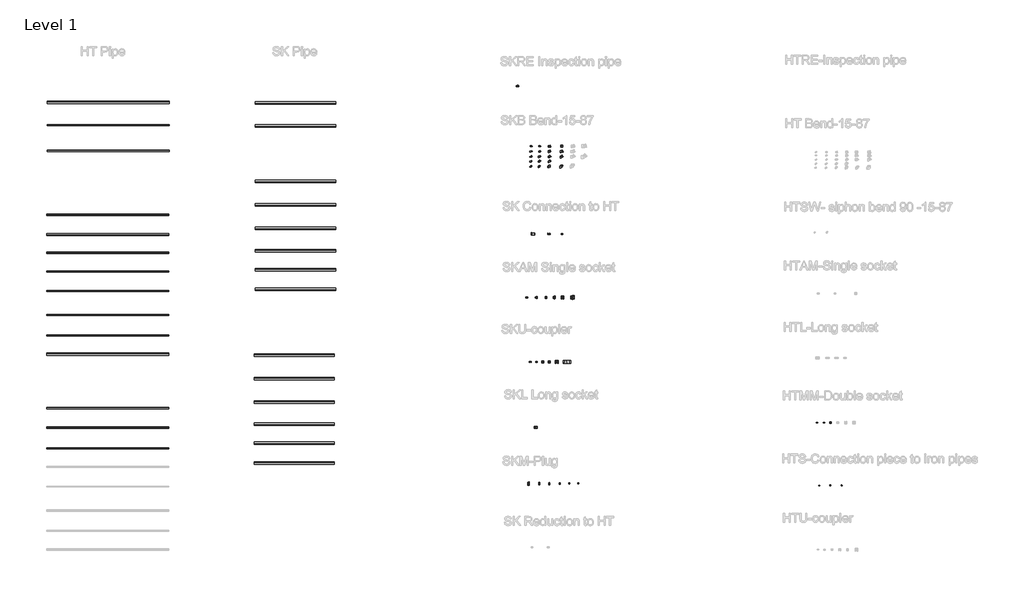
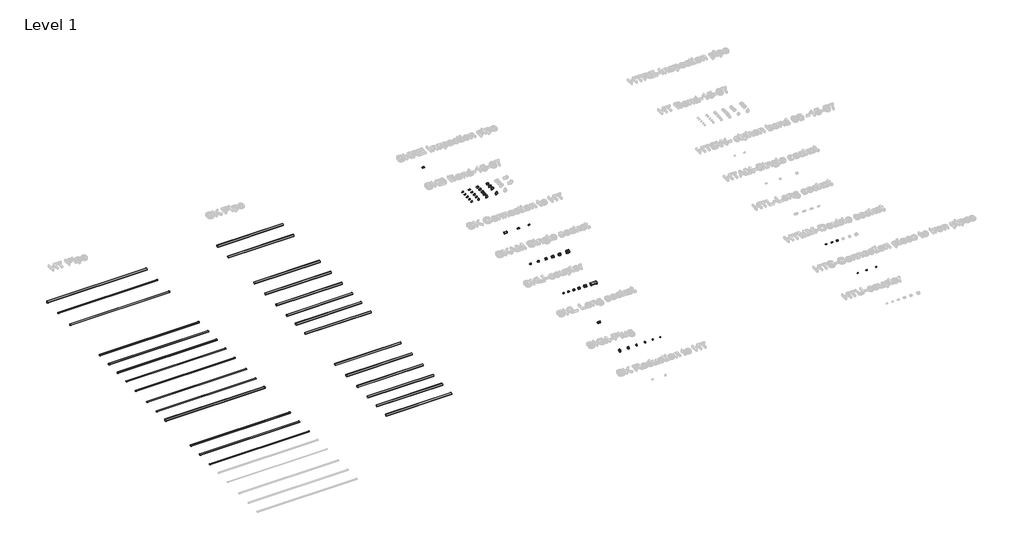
# One storey, part 2 of 29: 48 pipe fittings, 28 pipe segments.
"""IFC4 building model written with IfcOpenShell, lengths in millimetres."""

from ifc_helpers import new_model, si_unit, point, frame, frame_2d, origin, place, context, project, spatial, circle_curve, trimmed, segment, composite_curve, outline, extrude, transform, mapped, element, save
from components import pipe_fitting_97cefcbb, pipe_fitting_70d78208, pipe_fitting_3edb0472, pipe_fitting_ea9d4770, pipe_fitting_e8b2c53d, pipe_fitting_f070d908, pipe_fitting_42c9a68a, pipe_fitting_5114909c, pipe_fitting_4f15ce90, pipe_fitting_d92faa6e, pipe_fitting_08ce48a5, pipe_fitting_f1652b02, pipe_fitting_9059359d, pipe_fitting_59a59377, pipe_fitting_53d06ba0, pipe_fitting_7966021f, pipe_fitting_6bf98725, pipe_fitting_cee9e1e2, pipe_fitting_e52ff58d, pipe_fitting_2441ba4f, pipe_fitting_1ebebd56, pipe_fitting_a1ca4762, pipe_fitting_9b191db9, pipe_fitting_8de20daa, pipe_fitting_c5eb8bb2, pipe_fitting_2e757afb, pipe_fitting_46e309c2, pipe_fitting_6b5410aa, pipe_fitting_61a439ca, pipe_fitting_ea96c309, pipe_fitting_8957d1a8, pipe_fitting_1f33a7f4, pipe_fitting_3a01ebc7, pipe_fitting_8f561408, pipe_fitting_47bf5896, pipe_fitting_b53d4325, pipe_fitting_df833f15, pipe_fitting_8be27fc2, pipe_fitting_11ed9a3a, pipe_fitting_a771f2ab, pipe_fitting_0ddfdf04, pipe_fitting_d605dde8, pipe_fitting_faac6aaf, pipe_fitting_c86cb57a, pipe_fitting_fe7fcd8f, pipe_fitting_bae9c459, pipe_fitting_78887751, pipe_fitting_77622ff3

model = new_model("IFC4")

# Units and contexts
model_context = context("Model", 3, world=origin())
ifc_project = project(units=[si_unit("LENGTHUNIT", "METRE", prefix="MILLI")], contexts=[model_context])

# Site, building, storey
site = spatial("IfcSite", under=ifc_project)
building = spatial("IfcBuilding", under=site)
storey = spatial("IfcBuildingStorey", under=building, Name="Level 1", Elevation=0.0)

# Pipe fittings
placement = place(None, origin())
pipe_fitting_shape = pipe_fitting_97cefcbb(model_context)
element("IfcPipeFitting", 1, ObjectType="Superdrain SKL Long socket : Superdrain SKL Long socket", at=placement, inside=storey, context=model_context, shape_type="MappedRepresentation", body=[
    mapped(pipe_fitting_shape, transform((-2200.8096572, 5800.5406959, 0.0), x_axis=(1.0, 0.0, 0.0), y_axis=(0.0, 1.0, 0.0), z_axis=(0.0, 0.0, 1.0))),
])
pipe_fitting_2_shape = pipe_fitting_70d78208(model_context)
element("IfcPipeFitting", 2, ObjectType="Superdrain HTS-Connection piece to iron pipes : Superdrain HTS-Connection piece to iron pipes", at=placement, inside=storey, context=model_context, shape_type="MappedRepresentation", body=[
    mapped(pipe_fitting_2_shape, transform((17541.8986659, 1889.652324, 0.0), x_axis=(1.0, 0.0, 0.0), y_axis=(0.0, 1.0, 0.0), z_axis=(0.0, 0.0, 1.0))),
])
pipe_fitting_3_shape = pipe_fitting_3edb0472(model_context)
element("IfcPipeFitting", 3, ObjectType="Superdrain SK Connection to HT : Superdrain SK Connection to HT", at=placement, inside=storey, context=model_context, shape_type="MappedRepresentation", body=[
    mapped(pipe_fitting_3_shape, transform((-2399.8776508, 18813.449058, 0.0), x_axis=(1.0, 0.0, 0.0), y_axis=(0.0, 1.0, 0.0), z_axis=(0.0, 0.0, 1.0))),
])
pipe_fitting_4_shape = pipe_fitting_ea9d4770(model_context)
element("IfcPipeFitting", 4, ObjectType="Superdrain SKRE Inspection pipe : Superdrain SKRE Inspection pipe _56", at=placement, inside=storey, context=model_context, shape_type="MappedRepresentation", body=[
    mapped(pipe_fitting_4_shape, transform((-3456.4739237, 28758.5634475, 0.0), x_axis=(1.0, 0.0, 0.0), y_axis=(0.0, 1.0, 0.0), z_axis=(0.0, 0.0, 1.0))),
])
pipe_fitting_5_shape = pipe_fitting_e8b2c53d(model_context)
element("IfcPipeFitting", 5, ObjectType="Superdrain SKB Bend : Superdrain SKB Bend", at=placement, inside=storey, context=model_context, shape_type="MappedRepresentation", body=[
    mapped(pipe_fitting_5_shape, transform((-2551.9116196, 24709.074399, 0.0), x_axis=(1.0, 0.0, 0.0), y_axis=(0.0, 1.0, 0.0), z_axis=(0.0, 0.0, 1.0))),
])
pipe_fitting_6_shape = pipe_fitting_f070d908(model_context)
element("IfcPipeFitting", 6, ObjectType="Superdrain SKB Bend : Superdrain SKB Bend", at=placement, inside=storey, context=model_context, shape_type="MappedRepresentation", body=[
    mapped(pipe_fitting_6_shape, transform((-1985.9920519, 24709.074399, 0.0), x_axis=(1.0, 0.0, 0.0), y_axis=(0.0, 1.0, 0.0), z_axis=(0.0, 0.0, 1.0))),
])
pipe_fitting_7_shape = pipe_fitting_42c9a68a(model_context)
element("IfcPipeFitting", 7, ObjectType="Superdrain SKB Bend : Superdrain SKB Bend", at=placement, inside=storey, context=model_context, shape_type="MappedRepresentation", body=[
    mapped(pipe_fitting_7_shape, transform((-2551.9116196, 24352.4698153, 0.0), x_axis=(1.0, 0.0, 0.0), y_axis=(0.0, 1.0, 0.0), z_axis=(0.0, 0.0, 1.0))),
])
pipe_fitting_8_shape = pipe_fitting_5114909c(model_context)
element("IfcPipeFitting", 8, ObjectType="Superdrain SKB Bend : Superdrain SKB Bend", at=placement, inside=storey, context=model_context, shape_type="MappedRepresentation", body=[
    mapped(pipe_fitting_8_shape, transform((-1985.9920519, 24352.4698153, 0.0), x_axis=(1.0, 0.0, 0.0), y_axis=(0.0, 1.0, 0.0), z_axis=(0.0, 0.0, 1.0))),
])
pipe_fitting_9_shape = pipe_fitting_4f15ce90(model_context)
element("IfcPipeFitting", 9, ObjectType="Superdrain SKB Bend : Superdrain SKB Bend", at=placement, inside=storey, context=model_context, shape_type="MappedRepresentation", body=[
    mapped(pipe_fitting_9_shape, transform((-2551.9116196, 23995.8652317, 0.0), x_axis=(1.0, 0.0, 0.0), y_axis=(0.0, 1.0, 0.0), z_axis=(0.0, 0.0, 1.0))),
])
pipe_fitting_10_shape = pipe_fitting_d92faa6e(model_context)
element("IfcPipeFitting", 10, ObjectType="Superdrain SKB Bend : Superdrain SKB Bend", at=placement, inside=storey, context=model_context, shape_type="MappedRepresentation", body=[
    mapped(pipe_fitting_10_shape, transform((-1985.9920519, 23995.8652317, 0.0), x_axis=(1.0, 0.0, 0.0), y_axis=(0.0, 1.0, 0.0), z_axis=(0.0, 0.0, 1.0))),
])
pipe_fitting_11_shape = pipe_fitting_08ce48a5(model_context)
element("IfcPipeFitting", 11, ObjectType="Superdrain SKB Bend : Superdrain SKB Bend", at=placement, inside=storey, context=model_context, shape_type="MappedRepresentation", body=[
    mapped(pipe_fitting_11_shape, transform((-2551.9116196, 23669.685075, 0.0), x_axis=(1.0, 0.0, 0.0), y_axis=(0.0, 1.0, 0.0), z_axis=(0.0, 0.0, 1.0))),
])
pipe_fitting_12_shape = pipe_fitting_f1652b02(model_context)
element("IfcPipeFitting", 12, ObjectType="Superdrain SKB Bend : Superdrain SKB Bend", at=placement, inside=storey, context=model_context, shape_type="MappedRepresentation", body=[
    mapped(pipe_fitting_12_shape, transform((-1985.9920519, 23669.685075, 0.0), x_axis=(1.0, 0.0, 0.0), y_axis=(0.0, 1.0, 0.0), z_axis=(0.0, 0.0, 1.0))),
])
pipe_fitting_13_shape = pipe_fitting_9059359d(model_context)
element("IfcPipeFitting", 13, ObjectType="Superdrain SKB Bend : Superdrain SKB Bend", at=placement, inside=storey, context=model_context, shape_type="MappedRepresentation", body=[
    mapped(pipe_fitting_13_shape, transform((-2551.9116196, 23322.0453883, 0.0), x_axis=(1.0, 0.0, 0.0), y_axis=(0.0, 1.0, 0.0), z_axis=(0.0, 0.0, 1.0))),
])
pipe_fitting_14_shape = pipe_fitting_59a59377(model_context)
element("IfcPipeFitting", 14, ObjectType="Superdrain SKB Bend : Superdrain SKB Bend", at=placement, inside=storey, context=model_context, shape_type="MappedRepresentation", body=[
    mapped(pipe_fitting_14_shape, transform((-1985.9920519, 23322.0453883, 0.0), x_axis=(1.0, 0.0, 0.0), y_axis=(0.0, 1.0, 0.0), z_axis=(0.0, 0.0, 1.0))),
])
pipe_fitting_15_shape = pipe_fitting_53d06ba0(model_context)
element("IfcPipeFitting", 15, ObjectType="Superdrain SKB Bend : Superdrain SKB Bend", at=placement, inside=storey, context=model_context, shape_type="MappedRepresentation", body=[
    mapped(pipe_fitting_15_shape, transform((-1314.8706809, 24709.074399, 0.0), x_axis=(1.0, 0.0, 0.0), y_axis=(0.0, 1.0, 0.0), z_axis=(0.0, 0.0, 1.0))),
])
pipe_fitting_16_shape = pipe_fitting_7966021f(model_context)
element("IfcPipeFitting", 16, ObjectType="Superdrain SKB Bend : Superdrain SKB Bend", at=placement, inside=storey, context=model_context, shape_type="MappedRepresentation", body=[
    mapped(pipe_fitting_16_shape, transform((-1314.8706809, 24352.4698153, 0.0), x_axis=(1.0, 0.0, 0.0), y_axis=(0.0, 1.0, 0.0), z_axis=(0.0, 0.0, 1.0))),
])
pipe_fitting_17_shape = pipe_fitting_6bf98725(model_context)
element("IfcPipeFitting", 17, ObjectType="Superdrain SKB Bend : Superdrain SKB Bend", at=placement, inside=storey, context=model_context, shape_type="MappedRepresentation", body=[
    mapped(pipe_fitting_17_shape, transform((-1314.8706809, 23995.8652317, 0.0), x_axis=(1.0, 0.0, 0.0), y_axis=(0.0, 1.0, 0.0), z_axis=(0.0, 0.0, 1.0))),
])
pipe_fitting_18_shape = pipe_fitting_cee9e1e2(model_context)
element("IfcPipeFitting", 18, ObjectType="Superdrain SKB Bend : Superdrain SKB Bend", at=placement, inside=storey, context=model_context, shape_type="MappedRepresentation", body=[
    mapped(pipe_fitting_18_shape, transform((-1314.8706809, 23669.685075, 0.0), x_axis=(1.0, 0.0, 0.0), y_axis=(0.0, 1.0, 0.0), z_axis=(0.0, 0.0, 1.0))),
])
pipe_fitting_19_shape = pipe_fitting_e52ff58d(model_context)
element("IfcPipeFitting", 19, ObjectType="Superdrain SKB Bend : Superdrain SKB Bend", at=placement, inside=storey, context=model_context, shape_type="MappedRepresentation", body=[
    mapped(pipe_fitting_19_shape, transform((-1314.8706809, 23322.0453883, 0.0), x_axis=(1.0, 0.0, 0.0), y_axis=(0.0, 1.0, 0.0), z_axis=(0.0, 0.0, 1.0))),
])
pipe_fitting_20_shape = pipe_fitting_2441ba4f(model_context)
element("IfcPipeFitting", 20, ObjectType="Superdrain SKB Bend : Superdrain SKB Bend", at=placement, inside=storey, context=model_context, shape_type="MappedRepresentation", body=[
    mapped(pipe_fitting_20_shape, transform((-500.6322662, 24709.074399, 0.0), x_axis=(1.0, 0.0, 0.0), y_axis=(0.0, 1.0, 0.0), z_axis=(0.0, 0.0, 1.0))),
])
pipe_fitting_21_shape = pipe_fitting_1ebebd56(model_context)
element("IfcPipeFitting", 21, ObjectType="Superdrain SKB Bend : Superdrain SKB Bend", at=placement, inside=storey, context=model_context, shape_type="MappedRepresentation", body=[
    mapped(pipe_fitting_21_shape, transform((-500.6322662, 24352.4698153, 0.0), x_axis=(1.0, 0.0, 0.0), y_axis=(0.0, 1.0, 0.0), z_axis=(0.0, 0.0, 1.0))),
])
pipe_fitting_22_shape = pipe_fitting_a1ca4762(model_context)
element("IfcPipeFitting", 22, ObjectType="Superdrain SKB Bend : Superdrain SKB Bend", at=placement, inside=storey, context=model_context, shape_type="MappedRepresentation", body=[
    mapped(pipe_fitting_22_shape, transform((-500.6322662, 23995.8652317, 0.0), x_axis=(1.0, 0.0, 0.0), y_axis=(0.0, 1.0, 0.0), z_axis=(0.0, 0.0, 1.0))),
])
pipe_fitting_23_shape = pipe_fitting_9b191db9(model_context)
element("IfcPipeFitting", 23, ObjectType="Superdrain SKB Bend : Superdrain SKB Bend", at=placement, inside=storey, context=model_context, shape_type="MappedRepresentation", body=[
    mapped(pipe_fitting_23_shape, transform((-500.6322662, 23322.0453883, 0.0), x_axis=(1.0, 0.0, 0.0), y_axis=(0.0, 1.0, 0.0), z_axis=(0.0, 0.0, 1.0))),
])
pipe_fitting_24_shape = pipe_fitting_8de20daa(model_context)
element("IfcPipeFitting", 24, ObjectType="Superdrain SKAM Single socket : Superdrain SKAM Single socket", at=placement, inside=storey, context=model_context, shape_type="MappedRepresentation", body=[
    mapped(pipe_fitting_24_shape, transform((-2840.6757122, 14536.7917274, 0.0), x_axis=(1.0, 0.0, 0.0), y_axis=(0.0, 1.0, 0.0), z_axis=(0.0, 0.0, 1.0))),
])
pipe_fitting_25_shape = pipe_fitting_c5eb8bb2(model_context)
element("IfcPipeFitting", 25, ObjectType="Superdrain SKAM Single socket : Superdrain SKAM Single socket", at=placement, inside=storey, context=model_context, shape_type="MappedRepresentation", body=[
    mapped(pipe_fitting_25_shape, transform((-2203.2227387, 14536.7917274, 0.0), x_axis=(1.0, 0.0, 0.0), y_axis=(0.0, 1.0, 0.0), z_axis=(0.0, 0.0, 1.0))),
])
pipe_fitting_26_shape = pipe_fitting_2e757afb(model_context)
element("IfcPipeFitting", 26, ObjectType="Superdrain SKAM Single socket : Superdrain SKAM Single socket", at=placement, inside=storey, context=model_context, shape_type="MappedRepresentation", body=[
    mapped(pipe_fitting_26_shape, transform((-1549.1436808, 14536.7917274, 0.0), x_axis=(1.0, 0.0, 0.0), y_axis=(0.0, 1.0, 0.0), z_axis=(0.0, 0.0, 1.0))),
])
pipe_fitting_27_shape = pipe_fitting_46e309c2(model_context)
element("IfcPipeFitting", 27, ObjectType="Superdrain SKAM Single socket : Superdrain SKAM Single socket", at=placement, inside=storey, context=model_context, shape_type="MappedRepresentation", body=[
    mapped(pipe_fitting_27_shape, transform((-1008.5205916, 14536.7917274, 0.0), x_axis=(1.0, 0.0, 0.0), y_axis=(0.0, 1.0, 0.0), z_axis=(0.0, 0.0, 1.0))),
])
pipe_fitting_28_shape = pipe_fitting_6b5410aa(model_context)
element("IfcPipeFitting", 28, ObjectType="Superdrain SKAM Single socket : Superdrain SKAM Single socket", at=placement, inside=storey, context=model_context, shape_type="MappedRepresentation", body=[
    mapped(pipe_fitting_28_shape, transform((-450.6435741, 14536.7917274, 0.0), x_axis=(1.0, 0.0, 0.0), y_axis=(0.0, 1.0, 0.0), z_axis=(0.0, 0.0, 1.0))),
])
pipe_fitting_29_shape = pipe_fitting_61a439ca(model_context)
element("IfcPipeFitting", 29, ObjectType="Superdrain SKAM Single socket : Superdrain SKAM Single socket", at=placement, inside=storey, context=model_context, shape_type="MappedRepresentation", body=[
    mapped(pipe_fitting_29_shape, transform((241.9276732, 14536.7917274, 0.0), x_axis=(1.0, 0.0, 0.0), y_axis=(0.0, 1.0, 0.0), z_axis=(0.0, 0.0, 1.0))),
])
pipe_fitting_30_shape = pipe_fitting_ea96c309(model_context)
element("IfcPipeFitting", 30, ObjectType="Superdrain SKU-coupler : Superdrain SKU-coupler", at=placement, inside=storey, context=model_context, shape_type="MappedRepresentation", body=[
    mapped(pipe_fitting_30_shape, transform((-2606.7563139, 10215.3851194, 0.0), x_axis=(1.0, 0.0, 0.0), y_axis=(0.0, 1.0, 0.0), z_axis=(0.0, 0.0, 1.0))),
])
pipe_fitting_31_shape = pipe_fitting_8957d1a8(model_context)
element("IfcPipeFitting", 31, ObjectType="Superdrain SKU-coupler : Superdrain SKU-coupler", at=placement, inside=storey, context=model_context, shape_type="MappedRepresentation", body=[
    mapped(pipe_fitting_31_shape, transform((-141.6705568, 10201.2429838, 0.0), x_axis=(1.0, 0.0, 0.0), y_axis=(0.0, 1.0, 0.0), z_axis=(0.0, 0.0, 1.0))),
])
pipe_fitting_32_shape = pipe_fitting_1f33a7f4(model_context)
element("IfcPipeFitting", 32, ObjectType="Superdrain SKU-coupler : Superdrain SKU-coupler", at=placement, inside=storey, context=model_context, shape_type="MappedRepresentation", body=[
    mapped(pipe_fitting_32_shape, transform((-827.7185867, 10201.2429838, 0.0), x_axis=(1.0, 0.0, 0.0), y_axis=(0.0, 1.0, 0.0), z_axis=(0.0, 0.0, 1.0))),
])
pipe_fitting_33_shape = pipe_fitting_3a01ebc7(model_context)
element("IfcPipeFitting", 33, ObjectType="Superdrain SKU-coupler : Superdrain SKU-coupler", at=placement, inside=storey, context=model_context, shape_type="MappedRepresentation", body=[
    mapped(pipe_fitting_33_shape, transform((-1338.128374, 10201.2429838, 0.0), x_axis=(1.0, 0.0, 0.0), y_axis=(0.0, 1.0, 0.0), z_axis=(0.0, 0.0, 1.0))),
])
pipe_fitting_34_shape = pipe_fitting_8f561408(model_context)
element("IfcPipeFitting", 34, ObjectType="Superdrain SKU-coupler : Superdrain SKU-coupler", at=placement, inside=storey, context=model_context, shape_type="MappedRepresentation", body=[
    mapped(pipe_fitting_34_shape, transform((-1765.0041113, 10201.2429838, 0.0), x_axis=(1.0, 0.0, 0.0), y_axis=(0.0, 1.0, 0.0), z_axis=(0.0, 0.0, 1.0))),
])
pipe_fitting_35_shape = pipe_fitting_47bf5896(model_context)
element("IfcPipeFitting", 35, ObjectType="Superdrain SKU-coupler : Superdrain SKU-coupler", at=placement, inside=storey, context=model_context, shape_type="MappedRepresentation", body=[
    mapped(pipe_fitting_35_shape, transform((-2200.8984495, 10201.2429838, 0.0), x_axis=(1.0, 0.0, 0.0), y_axis=(0.0, 1.0, 0.0), z_axis=(0.0, 0.0, 1.0))),
])
pipe_fitting_36_shape = pipe_fitting_b53d4325(model_context)
element("IfcPipeFitting", 36, ObjectType="Superdrain HTMM-Double socket : Superdrain HTMM-Double socket", at=placement, inside=storey, context=model_context, shape_type="MappedRepresentation", body=[
    mapped(pipe_fitting_36_shape, transform((16659.8272116, 6113.6610392, 0.0), x_axis=(1.0, 0.0, 0.0), y_axis=(0.0, 1.0, 0.0), z_axis=(0.0, 0.0, 1.0))),
])
pipe_fitting_37_shape = pipe_fitting_df833f15(model_context)
element("IfcPipeFitting", 37, ObjectType="Superdrain HTMM-Double socket : Superdrain HTMM-Double socket", at=placement, inside=storey, context=model_context, shape_type="MappedRepresentation", body=[
    mapped(pipe_fitting_37_shape, transform((17580.8588953, 6113.6610392, 0.0), x_axis=(1.0, 0.0, 0.0), y_axis=(0.0, 1.0, 0.0), z_axis=(0.0, 0.0, 1.0))),
])
pipe_fitting_38_shape = pipe_fitting_8be27fc2(model_context)
element("IfcPipeFitting", 38, ObjectType="Superdrain SKM-Plug : Superdrain SKM-Plug", at=placement, inside=storey, context=model_context, shape_type="MappedRepresentation", body=[
    mapped(pipe_fitting_38_shape, transform((-2763.7633358, 2011.4975834, 0.0), x_axis=(1.0, 0.0, 0.0), y_axis=(0.0, 1.0, 0.0), z_axis=(0.0, 0.0, 1.0))),
])
pipe_fitting_39_shape = pipe_fitting_11ed9a3a(model_context)
element("IfcPipeFitting", 39, ObjectType="Superdrain SKM-Plug : Superdrain SKM-Plug", at=placement, inside=storey, context=model_context, shape_type="MappedRepresentation", body=[
    mapped(pipe_fitting_39_shape, transform((-2043.7633358, 2011.4975834, 0.0), x_axis=(1.0, 0.0, 0.0), y_axis=(0.0, 1.0, 0.0), z_axis=(0.0, 0.0, 1.0))),
])
pipe_fitting_40_shape = pipe_fitting_a771f2ab(model_context)
element("IfcPipeFitting", 40, ObjectType="Superdrain SKM-Plug : Superdrain SKM-Plug", at=placement, inside=storey, context=model_context, shape_type="MappedRepresentation", body=[
    mapped(pipe_fitting_40_shape, transform((-1363.7633358, 2011.4975834, 0.0), x_axis=(1.0, 0.0, 0.0), y_axis=(0.0, 1.0, 0.0), z_axis=(0.0, 0.0, 1.0))),
])
pipe_fitting_41_shape = pipe_fitting_0ddfdf04(model_context)
element("IfcPipeFitting", 41, ObjectType="Superdrain SKM-Plug : Superdrain SKM-Plug", at=placement, inside=storey, context=model_context, shape_type="MappedRepresentation", body=[
    mapped(pipe_fitting_41_shape, transform((-663.7633358, 2011.4975834, 0.0), x_axis=(1.0, 0.0, 0.0), y_axis=(0.0, 1.0, 0.0), z_axis=(0.0, 0.0, 1.0))),
])
pipe_fitting_42_shape = pipe_fitting_d605dde8(model_context)
element("IfcPipeFitting", 42, ObjectType="Superdrain SKM-Plug : Superdrain SKM-Plug", at=placement, inside=storey, context=model_context, shape_type="MappedRepresentation", body=[
    mapped(pipe_fitting_42_shape, transform((-21.3417547, 2025.2717365, 0.0), x_axis=(1.0, 0.0, 0.0), y_axis=(0.0, 1.0, 0.0), z_axis=(0.0, 0.0, 1.0))),
])
pipe_fitting_43_shape = pipe_fitting_faac6aaf(model_context)
element("IfcPipeFitting", 43, ObjectType="Superdrain SKM-Plug : Superdrain SKM-Plug", at=placement, inside=storey, context=model_context, shape_type="MappedRepresentation", body=[
    mapped(pipe_fitting_43_shape, transform((598.6582453, 2025.2717365, 0.0), x_axis=(1.0, 0.0, 0.0), y_axis=(0.0, 1.0, 0.0), z_axis=(0.0, 0.0, 1.0))),
])
pipe_fitting_44_shape = pipe_fitting_c86cb57a(model_context)
element("IfcPipeFitting", 44, ObjectType="Superdrain HTS-Connection piece to iron pipes : Superdrain HTS-Connection piece to iron pipes", at=placement, inside=storey, context=model_context, shape_type="MappedRepresentation", body=[
    mapped(pipe_fitting_44_shape, transform((16805.2864942, 1889.652324, 0.0), x_axis=(1.0, 0.0, 0.0), y_axis=(0.0, 1.0, 0.0), z_axis=(0.0, 0.0, 1.0))),
])
pipe_fitting_45_shape = pipe_fitting_fe7fcd8f(model_context)
element("IfcPipeFitting", 45, ObjectType="Superdrain HTS-Connection piece to iron pipes : Superdrain HTS-Connection piece to iron pipes", at=placement, inside=storey, context=model_context, shape_type="MappedRepresentation", body=[
    mapped(pipe_fitting_45_shape, transform((18326.5580023, 1889.652324, 0.0), x_axis=(1.0, 0.0, 0.0), y_axis=(0.0, 1.0, 0.0), z_axis=(0.0, 0.0, 1.0))),
])
pipe_fitting_46_shape = pipe_fitting_bae9c459(model_context)
element("IfcPipeFitting", 46, ObjectType="Superdrain SK Connection to HT : Superdrain SK Connection to HT", at=placement, inside=storey, context=model_context, shape_type="MappedRepresentation", body=[
    mapped(pipe_fitting_46_shape, transform((-1342.9922535, 18813.449058, 0.0), x_axis=(1.0, 0.0, 0.0), y_axis=(0.0, 1.0, 0.0), z_axis=(0.0, 0.0, 1.0))),
])
pipe_fitting_47_shape = pipe_fitting_78887751(model_context)
element("IfcPipeFitting", 47, ObjectType="Superdrain SK Connection to HT : Superdrain SK Connection to HT", at=placement, inside=storey, context=model_context, shape_type="MappedRepresentation", body=[
    mapped(pipe_fitting_47_shape, transform((-460.753982, 18813.449058, 0.0), x_axis=(1.0, 0.0, 0.0), y_axis=(0.0, 1.0, 0.0), z_axis=(0.0, 0.0, 1.0))),
])
pipe_fitting_48_shape = pipe_fitting_77622ff3(model_context)
element("IfcPipeFitting", 48, ObjectType="Superdrain HTMM-Double socket : Superdrain HTMM-Double socket", at=placement, inside=storey, context=model_context, shape_type="MappedRepresentation", body=[
    mapped(pipe_fitting_48_shape, transform((17140.8093691, 6113.6610392, 0.0), x_axis=(1.0, 0.0, 0.0), y_axis=(0.0, 1.0, 0.0), z_axis=(0.0, 0.0, 1.0))),
])

# Pipe segments
element("IfcPipeSegment", 49, ObjectType="Superdrain HT_ Double socket", at=placement, inside=storey, context=model_context, shape_type="SweptSolid", body=[
    extrude(outline(composite_curve([segment(trimmed(circle_curve(frame_2d((24401.0738305, 0.0)), 62.5), [point((24338.5738305, 0.0))], [point((24401.0738305, 62.5))], False, "CARTESIAN"), True, "CONTINUOUS"), segment(trimmed(circle_curve(frame_2d((24401.0738305, 0.0)), 62.5), [point((24401.0738305, 62.5))], [point((24463.5738305, 0.0))], False, "CARTESIAN"), True, "CONTINUOUS"), segment(trimmed(circle_curve(frame_2d((24401.0738305, 0.0)), 62.5), [point((24463.5738305, 0.0))], [point((24401.0738305, -62.5))], False, "CARTESIAN"), True, "CONTINUOUS"), segment(trimmed(circle_curve(frame_2d((24401.0738305, 0.0)), 62.5), [point((24401.0738305, -62.5))], [point((24338.5738305, 0.0))], False, "CARTESIAN"), True, "CONTINUOUS")], self_intersect=False)), frame((-35063.6570842, 0.0, 0.0), z_axis=(1.0, 0.0, 0.0), x_axis=(0.0, 1.0, 0.0)), (0.0, 0.0, 1.0), 8200.0),
])
element("IfcPipeSegment", 50, ObjectType="Superdrain HT_ Single socket", at=placement, inside=storey, context=model_context, shape_type="SweptSolid", body=[
    extrude(outline(composite_curve([segment(trimmed(circle_curve(frame_2d((26121.8702032, 0.0)), 37.5), [point((26084.3702032, 0.0))], [point((26121.8702032, 37.5))], False, "CARTESIAN"), True, "CONTINUOUS"), segment(trimmed(circle_curve(frame_2d((26121.8702032, 0.0)), 37.5), [point((26121.8702032, 37.5))], [point((26159.3702032, 0.0))], False, "CARTESIAN"), True, "CONTINUOUS"), segment(trimmed(circle_curve(frame_2d((26121.8702032, 0.0)), 37.5), [point((26159.3702032, 0.0))], [point((26121.8702032, -37.5))], False, "CARTESIAN"), True, "CONTINUOUS"), segment(trimmed(circle_curve(frame_2d((26121.8702032, 0.0)), 37.5), [point((26121.8702032, -37.5))], [point((26084.3702032, 0.0))], False, "CARTESIAN"), True, "CONTINUOUS")], self_intersect=False)), frame((-35063.6570842, 0.0, 0.0), z_axis=(1.0, 0.0, 0.0), x_axis=(0.0, 1.0, 0.0)), (0.0, 0.0, 1.0), 8200.0),
])
element("IfcPipeSegment", 51, ObjectType="Superdrain HT_ Plain ended", at=placement, inside=storey, context=model_context, shape_type="SweptSolid", body=[
    extrude(outline(composite_curve([segment(trimmed(circle_curve(frame_2d((27666.5108195, 0.0)), 80.0), [point((27586.5108195, 0.0))], [point((27666.5108195, 80.0))], False, "CARTESIAN"), True, "CONTINUOUS"), segment(trimmed(circle_curve(frame_2d((27666.5108195, 0.0)), 80.0), [point((27666.5108195, 80.0))], [point((27746.5108195, 0.0))], False, "CARTESIAN"), True, "CONTINUOUS"), segment(trimmed(circle_curve(frame_2d((27666.5108195, 0.0)), 80.0), [point((27746.5108195, 0.0))], [point((27666.5108195, -80.0))], False, "CARTESIAN"), True, "CONTINUOUS"), segment(trimmed(circle_curve(frame_2d((27666.5108195, 0.0)), 80.0), [point((27666.5108195, -80.0))], [point((27586.5108195, 0.0))], False, "CARTESIAN"), True, "CONTINUOUS")], self_intersect=False)), frame((-35063.6570842, 0.0, 0.0), z_axis=(1.0, 0.0, 0.0), x_axis=(0.0, 1.0, 0.0)), (0.0, 0.0, 1.0), 8200.0),
])
element("IfcPipeSegment", 52, ObjectType="Superdrain Single socket pipe HTEM - 150 mm", at=placement, inside=storey, context=model_context, shape_type="SweptSolid", body=[
    extrude(outline(composite_curve([segment(trimmed(circle_curve(frame_2d((20096.7811014, 0.0)), 55.0), [point((20041.7811014, 0.0))], [point((20096.7811014, 55.0))], False, "CARTESIAN"), True, "CONTINUOUS"), segment(trimmed(circle_curve(frame_2d((20096.7811014, 0.0)), 55.0), [point((20096.7811014, 55.0))], [point((20151.7811014, 0.0))], False, "CARTESIAN"), True, "CONTINUOUS"), segment(trimmed(circle_curve(frame_2d((20096.7811014, 0.0)), 55.0), [point((20151.7811014, 0.0))], [point((20096.7811014, -55.0))], False, "CARTESIAN"), True, "CONTINUOUS"), segment(trimmed(circle_curve(frame_2d((20096.7811014, 0.0)), 55.0), [point((20096.7811014, -55.0))], [point((20041.7811014, 0.0))], False, "CARTESIAN"), True, "CONTINUOUS")], self_intersect=False)), frame((-35123.6590069, 0.0, 0.0), z_axis=(1.0, 0.0, 0.0), x_axis=(0.0, 1.0, 0.0)), (0.0, 0.0, 1.0), 8200.0),
])
element("IfcPipeSegment", 53, ObjectType="Superdrain SK_Plain end pipe", at=placement, inside=storey, context=model_context, shape_type="SweptSolid", body=[
    extrude(outline(composite_curve([segment(trimmed(circle_curve(frame_2d((27620.0800705, 0.0)), 80.0), [point((27540.0800705, 0.0))], [point((27620.0800705, 80.0))], False, "CARTESIAN"), True, "CONTINUOUS"), segment(trimmed(circle_curve(frame_2d((27620.0800705, 0.0)), 80.0), [point((27620.0800705, 80.0))], [point((27700.0800705, 0.0))], False, "CARTESIAN"), True, "CONTINUOUS"), segment(trimmed(circle_curve(frame_2d((27620.0800705, 0.0)), 80.0), [point((27700.0800705, 0.0))], [point((27620.0800705, -80.0))], False, "CARTESIAN"), True, "CONTINUOUS"), segment(trimmed(circle_curve(frame_2d((27620.0800705, 0.0)), 80.0), [point((27620.0800705, -80.0))], [point((27540.0800705, 0.0))], False, "CARTESIAN"), True, "CONTINUOUS")], self_intersect=False)), frame((-21083.2945748, 0.0, 0.0), z_axis=(1.0, 0.0, 0.0), x_axis=(0.0, 1.0, 0.0)), (0.0, 0.0, 1.0), 5400.0),
])
element("IfcPipeSegment", 54, ObjectType="Superdrain SK_Single socket pipe", at=placement, inside=storey, context=model_context, shape_type="SweptSolid", body=[
    extrude(outline(composite_curve([segment(trimmed(circle_curve(frame_2d((26075.4394542, 0.0)), 80.0), [point((25995.4394542, 0.0))], [point((26075.4394542, 80.0))], False, "CARTESIAN"), True, "CONTINUOUS"), segment(trimmed(circle_curve(frame_2d((26075.4394542, 0.0)), 80.0), [point((26075.4394542, 80.0))], [point((26155.4394542, 0.0))], False, "CARTESIAN"), True, "CONTINUOUS"), segment(trimmed(circle_curve(frame_2d((26075.4394542, 0.0)), 80.0), [point((26155.4394542, 0.0))], [point((26075.4394542, -80.0))], False, "CARTESIAN"), True, "CONTINUOUS"), segment(trimmed(circle_curve(frame_2d((26075.4394542, 0.0)), 80.0), [point((26075.4394542, -80.0))], [point((25995.4394542, 0.0))], False, "CARTESIAN"), True, "CONTINUOUS")], self_intersect=False)), frame((-21083.2945748, 0.0, 0.0), z_axis=(1.0, 0.0, 0.0), x_axis=(0.0, 1.0, 0.0)), (0.0, 0.0, 1.0), 5400.0),
])
element("IfcPipeSegment", 55, ObjectType="Superdrain Plain ended pipe SK,150 mm", at=placement, inside=storey, context=model_context, shape_type="SweptSolid", body=[
    extrude(outline(composite_curve([segment(trimmed(circle_curve(frame_2d((22341.3586574, 0.0)), 80.0), [point((22261.3586574, 0.0))], [point((22341.3586574, 80.0))], False, "CARTESIAN"), True, "CONTINUOUS"), segment(trimmed(circle_curve(frame_2d((22341.3586574, 0.0)), 80.0), [point((22341.3586574, 80.0))], [point((22421.3586574, 0.0))], False, "CARTESIAN"), True, "CONTINUOUS"), segment(trimmed(circle_curve(frame_2d((22341.3586574, 0.0)), 80.0), [point((22421.3586574, 0.0))], [point((22341.3586574, -80.0))], False, "CARTESIAN"), True, "CONTINUOUS"), segment(trimmed(circle_curve(frame_2d((22341.3586574, 0.0)), 80.0), [point((22341.3586574, -80.0))], [point((22261.3586574, 0.0))], False, "CARTESIAN"), True, "CONTINUOUS")], self_intersect=False)), frame((-21083.2945748, 0.0, 0.0), z_axis=(1.0, 0.0, 0.0), x_axis=(0.0, 1.0, 0.0)), (0.0, 0.0, 1.0), 5400.0),
])
element("IfcPipeSegment", 56, ObjectType="Superdrain Plain ended pipe SK,250 mm", at=placement, inside=storey, context=model_context, shape_type="SweptSolid", body=[
    extrude(outline(composite_curve([segment(trimmed(circle_curve(frame_2d((20759.6142491, 0.0)), 80.0), [point((20679.6142491, 0.0))], [point((20759.6142491, 80.0))], False, "CARTESIAN"), True, "CONTINUOUS"), segment(trimmed(circle_curve(frame_2d((20759.6142491, 0.0)), 80.0), [point((20759.6142491, 80.0))], [point((20839.6142491, 0.0))], False, "CARTESIAN"), True, "CONTINUOUS"), segment(trimmed(circle_curve(frame_2d((20759.6142491, 0.0)), 80.0), [point((20839.6142491, 0.0))], [point((20759.6142491, -80.0))], False, "CARTESIAN"), True, "CONTINUOUS"), segment(trimmed(circle_curve(frame_2d((20759.6142491, 0.0)), 80.0), [point((20759.6142491, -80.0))], [point((20679.6142491, 0.0))], False, "CARTESIAN"), True, "CONTINUOUS")], self_intersect=False)), frame((-21083.2945748, 0.0, 0.0), z_axis=(1.0, 0.0, 0.0), x_axis=(0.0, 1.0, 0.0)), (0.0, 0.0, 1.0), 5400.0),
])
element("IfcPipeSegment", 57, ObjectType="Superdrain Plain ended pipe SK,500 mm", at=placement, inside=storey, context=model_context, shape_type="SweptSolid", body=[
    extrude(outline(composite_curve([segment(trimmed(circle_curve(frame_2d((19183.0433038, 0.0)), 80.0), [point((19103.0433038, 0.0))], [point((19183.0433038, 80.0))], False, "CARTESIAN"), True, "CONTINUOUS"), segment(trimmed(circle_curve(frame_2d((19183.0433038, 0.0)), 80.0), [point((19183.0433038, 80.0))], [point((19263.0433038, 0.0))], False, "CARTESIAN"), True, "CONTINUOUS"), segment(trimmed(circle_curve(frame_2d((19183.0433038, 0.0)), 80.0), [point((19263.0433038, 0.0))], [point((19183.0433038, -80.0))], False, "CARTESIAN"), True, "CONTINUOUS"), segment(trimmed(circle_curve(frame_2d((19183.0433038, 0.0)), 80.0), [point((19183.0433038, -80.0))], [point((19103.0433038, 0.0))], False, "CARTESIAN"), True, "CONTINUOUS")], self_intersect=False)), frame((-21083.2945748, 0.0, 0.0), z_axis=(1.0, 0.0, 0.0), x_axis=(0.0, 1.0, 0.0)), (0.0, 0.0, 1.0), 5400.0),
])
element("IfcPipeSegment", 58, ObjectType="Superdrain Plain ended pipe SK,1000 mm", at=placement, inside=storey, context=model_context, shape_type="SweptSolid", body=[
    extrude(outline(composite_curve([segment(trimmed(circle_curve(frame_2d((17689.3710231, 0.0)), 80.0), [point((17609.3710231, 0.0))], [point((17689.3710231, 80.0))], False, "CARTESIAN"), True, "CONTINUOUS"), segment(trimmed(circle_curve(frame_2d((17689.3710231, 0.0)), 80.0), [point((17689.3710231, 80.0))], [point((17769.3710231, 0.0))], False, "CARTESIAN"), True, "CONTINUOUS"), segment(trimmed(circle_curve(frame_2d((17689.3710231, 0.0)), 80.0), [point((17769.3710231, 0.0))], [point((17689.3710231, -80.0))], False, "CARTESIAN"), True, "CONTINUOUS"), segment(trimmed(circle_curve(frame_2d((17689.3710231, 0.0)), 80.0), [point((17689.3710231, -80.0))], [point((17609.3710231, 0.0))], False, "CARTESIAN"), True, "CONTINUOUS")], self_intersect=False)), frame((-21083.2945748, 0.0, 0.0), z_axis=(1.0, 0.0, 0.0), x_axis=(0.0, 1.0, 0.0)), (0.0, 0.0, 1.0), 5400.0),
])
element("IfcPipeSegment", 59, ObjectType="Superdrain Plain ended pipe SK,3000 mm", at=placement, inside=storey, context=model_context, shape_type="SweptSolid", body=[
    extrude(outline(composite_curve([segment(trimmed(circle_curve(frame_2d((15079.5079521, 0.0)), 80.0), [point((14999.5079521, 0.0))], [point((15079.5079521, 80.0))], False, "CARTESIAN"), True, "CONTINUOUS"), segment(trimmed(circle_curve(frame_2d((15079.5079521, 0.0)), 80.0), [point((15079.5079521, 80.0))], [point((15159.5079521, 0.0))], False, "CARTESIAN"), True, "CONTINUOUS"), segment(trimmed(circle_curve(frame_2d((15079.5079521, 0.0)), 80.0), [point((15159.5079521, 0.0))], [point((15079.5079521, -80.0))], False, "CARTESIAN"), True, "CONTINUOUS"), segment(trimmed(circle_curve(frame_2d((15079.5079521, 0.0)), 80.0), [point((15079.5079521, -80.0))], [point((14999.5079521, 0.0))], False, "CARTESIAN"), True, "CONTINUOUS")], self_intersect=False)), frame((-21083.2945748, 0.0, 0.0), z_axis=(1.0, 0.0, 0.0), x_axis=(0.0, 1.0, 0.0)), (0.0, 0.0, 1.0), 5400.0),
])
element("IfcPipeSegment", 60, ObjectType="Superdrain Plain ended pipe SK,2000 mm", at=placement, inside=storey, context=model_context, shape_type="SweptSolid", body=[
    extrude(outline(composite_curve([segment(trimmed(circle_curve(frame_2d((16412.7957389, 0.0)), 80.0), [point((16332.7957389, 0.0))], [point((16412.7957389, 80.0))], False, "CARTESIAN"), True, "CONTINUOUS"), segment(trimmed(circle_curve(frame_2d((16412.7957389, 0.0)), 80.0), [point((16412.7957389, 80.0))], [point((16492.7957389, 0.0))], False, "CARTESIAN"), True, "CONTINUOUS"), segment(trimmed(circle_curve(frame_2d((16412.7957389, 0.0)), 80.0), [point((16492.7957389, 0.0))], [point((16412.7957389, -80.0))], False, "CARTESIAN"), True, "CONTINUOUS"), segment(trimmed(circle_curve(frame_2d((16412.7957389, 0.0)), 80.0), [point((16412.7957389, -80.0))], [point((16332.7957389, 0.0))], False, "CARTESIAN"), True, "CONTINUOUS")], self_intersect=False)), frame((-21083.2945748, 0.0, 0.0), z_axis=(1.0, 0.0, 0.0), x_axis=(0.0, 1.0, 0.0)), (0.0, 0.0, 1.0), 5400.0),
])
element("IfcPipeSegment", 61, ObjectType="Superdrain Single socket pipe HTEM - 250 mm", at=placement, inside=storey, context=model_context, shape_type="SweptSolid", body=[
    extrude(outline(composite_curve([segment(trimmed(circle_curve(frame_2d((18774.6251323, 0.0)), 55.0), [point((18719.6251323, 0.0))], [point((18774.6251323, 55.0))], False, "CARTESIAN"), True, "CONTINUOUS"), segment(trimmed(circle_curve(frame_2d((18774.6251323, 0.0)), 55.0), [point((18774.6251323, 55.0))], [point((18829.6251323, 0.0))], False, "CARTESIAN"), True, "CONTINUOUS"), segment(trimmed(circle_curve(frame_2d((18774.6251323, 0.0)), 55.0), [point((18829.6251323, 0.0))], [point((18774.6251323, -55.0))], False, "CARTESIAN"), True, "CONTINUOUS"), segment(trimmed(circle_curve(frame_2d((18774.6251323, 0.0)), 55.0), [point((18774.6251323, -55.0))], [point((18719.6251323, 0.0))], False, "CARTESIAN"), True, "CONTINUOUS")], self_intersect=False)), frame((-35123.6590069, 0.0, 0.0), z_axis=(1.0, 0.0, 0.0), x_axis=(0.0, 1.0, 0.0)), (0.0, 0.0, 1.0), 8200.0),
])
element("IfcPipeSegment", 62, ObjectType="Superdrain Single socket pipe HTEM - 750 mm", at=placement, inside=storey, context=model_context, shape_type="SweptSolid", body=[
    extrude(outline(composite_curve([segment(trimmed(circle_curve(frame_2d((16279.4429715, 0.0)), 37.5), [point((16241.9429715, 0.0))], [point((16279.4429715, 37.5))], False, "CARTESIAN"), True, "CONTINUOUS"), segment(trimmed(circle_curve(frame_2d((16279.4429715, 0.0)), 37.5), [point((16279.4429715, 37.5))], [point((16316.9429715, 0.0))], False, "CARTESIAN"), True, "CONTINUOUS"), segment(trimmed(circle_curve(frame_2d((16279.4429715, 0.0)), 37.5), [point((16316.9429715, 0.0))], [point((16279.4429715, -37.5))], False, "CARTESIAN"), True, "CONTINUOUS"), segment(trimmed(circle_curve(frame_2d((16279.4429715, 0.0)), 37.5), [point((16279.4429715, -37.5))], [point((16241.9429715, 0.0))], False, "CARTESIAN"), True, "CONTINUOUS")], self_intersect=False)), frame((-35123.6590069, 0.0, 0.0), z_axis=(1.0, 0.0, 0.0), x_axis=(0.0, 1.0, 0.0)), (0.0, 0.0, 1.0), 8200.0),
])
element("IfcPipeSegment", 63, ObjectType="Superdrain Single socket pipe HTEM - 1000 mm", at=placement, inside=storey, context=model_context, shape_type="SweptSolid", body=[
    extrude(outline(composite_curve([segment(trimmed(circle_curve(frame_2d((14961.507301, 0.0)), 37.5), [point((14924.007301, 0.0))], [point((14961.507301, 37.5))], False, "CARTESIAN"), True, "CONTINUOUS"), segment(trimmed(circle_curve(frame_2d((14961.507301, 0.0)), 37.5), [point((14961.507301, 37.5))], [point((14999.007301, 0.0))], False, "CARTESIAN"), True, "CONTINUOUS"), segment(trimmed(circle_curve(frame_2d((14961.507301, 0.0)), 37.5), [point((14999.007301, 0.0))], [point((14961.507301, -37.5))], False, "CARTESIAN"), True, "CONTINUOUS"), segment(trimmed(circle_curve(frame_2d((14961.507301, 0.0)), 37.5), [point((14961.507301, -37.5))], [point((14924.007301, 0.0))], False, "CARTESIAN"), True, "CONTINUOUS")], self_intersect=False)), frame((-35123.6590069, 0.0, 0.0), z_axis=(1.0, 0.0, 0.0), x_axis=(0.0, 1.0, 0.0)), (0.0, 0.0, 1.0), 8200.0),
])
element("IfcPipeSegment", 64, ObjectType="Superdrain Single socket pipe HTEM - 1500 mm", at=placement, inside=storey, context=model_context, shape_type="SweptSolid", body=[
    extrude(outline(composite_curve([segment(trimmed(circle_curve(frame_2d((13346.9286004, 0.0)), 37.5), [point((13309.4286004, 0.0))], [point((13346.9286004, 37.5))], False, "CARTESIAN"), True, "CONTINUOUS"), segment(trimmed(circle_curve(frame_2d((13346.9286004, 0.0)), 37.5), [point((13346.9286004, 37.5))], [point((13384.4286004, 0.0))], False, "CARTESIAN"), True, "CONTINUOUS"), segment(trimmed(circle_curve(frame_2d((13346.9286004, 0.0)), 37.5), [point((13384.4286004, 0.0))], [point((13346.9286004, -37.5))], False, "CARTESIAN"), True, "CONTINUOUS"), segment(trimmed(circle_curve(frame_2d((13346.9286004, 0.0)), 37.5), [point((13346.9286004, -37.5))], [point((13309.4286004, 0.0))], False, "CARTESIAN"), True, "CONTINUOUS")], self_intersect=False)), frame((-35123.6590069, 0.0, 0.0), z_axis=(1.0, 0.0, 0.0), x_axis=(0.0, 1.0, 0.0)), (0.0, 0.0, 1.0), 8200.0),
])
element("IfcPipeSegment", 65, ObjectType="Superdrain Single socket pipe HTEM - 2000 mm", at=placement, inside=storey, context=model_context, shape_type="SweptSolid", body=[
    extrude(outline(composite_curve([segment(trimmed(circle_curve(frame_2d((11990.6407038, 0.0)), 37.5), [point((11953.1407038, 0.0))], [point((11990.6407038, 37.5))], False, "CARTESIAN"), True, "CONTINUOUS"), segment(trimmed(circle_curve(frame_2d((11990.6407038, 0.0)), 37.5), [point((11990.6407038, 37.5))], [point((12028.1407038, 0.0))], False, "CARTESIAN"), True, "CONTINUOUS"), segment(trimmed(circle_curve(frame_2d((11990.6407038, 0.0)), 37.5), [point((12028.1407038, 0.0))], [point((11990.6407038, -37.5))], False, "CARTESIAN"), True, "CONTINUOUS"), segment(trimmed(circle_curve(frame_2d((11990.6407038, 0.0)), 37.5), [point((11990.6407038, -37.5))], [point((11953.1407038, 0.0))], False, "CARTESIAN"), True, "CONTINUOUS")], self_intersect=False)), frame((-35123.6590069, 0.0, 0.0), z_axis=(1.0, 0.0, 0.0), x_axis=(0.0, 1.0, 0.0)), (0.0, 0.0, 1.0), 8200.0),
])
element("IfcPipeSegment", 66, ObjectType="Superdrain Single socket pipe HTEM - 3000 mm", at=placement, inside=storey, context=model_context, shape_type="SweptSolid", body=[
    extrude(outline(composite_curve([segment(trimmed(circle_curve(frame_2d((10727.954574, 0.0)), 80.0), [point((10647.954574, 0.0))], [point((10727.954574, 80.0))], False, "CARTESIAN"), True, "CONTINUOUS"), segment(trimmed(circle_curve(frame_2d((10727.954574, 0.0)), 80.0), [point((10727.954574, 80.0))], [point((10807.954574, 0.0))], False, "CARTESIAN"), True, "CONTINUOUS"), segment(trimmed(circle_curve(frame_2d((10727.954574, 0.0)), 80.0), [point((10807.954574, 0.0))], [point((10727.954574, -80.0))], False, "CARTESIAN"), True, "CONTINUOUS"), segment(trimmed(circle_curve(frame_2d((10727.954574, 0.0)), 80.0), [point((10727.954574, -80.0))], [point((10647.954574, 0.0))], False, "CARTESIAN"), True, "CONTINUOUS")], self_intersect=False)), frame((-35123.6590069, 0.0, 0.0), z_axis=(1.0, 0.0, 0.0), x_axis=(0.0, 1.0, 0.0)), (0.0, 0.0, 1.0), 8200.0),
])
element("IfcPipeSegment", 67, ObjectType="Superdrain Double socket pipe HTEM - 150 mm", at=placement, inside=storey, context=model_context, shape_type="SweptSolid", body=[
    extrude(outline(composite_curve([segment(trimmed(circle_curve(frame_2d((7096.7811014, 0.0)), 55.0), [point((7041.7811014, 0.0))], [point((7096.7811014, 55.0))], False, "CARTESIAN"), True, "CONTINUOUS"), segment(trimmed(circle_curve(frame_2d((7096.7811014, 0.0)), 55.0), [point((7096.7811014, 55.0))], [point((7151.7811014, 0.0))], False, "CARTESIAN"), True, "CONTINUOUS"), segment(trimmed(circle_curve(frame_2d((7096.7811014, 0.0)), 55.0), [point((7151.7811014, 0.0))], [point((7096.7811014, -55.0))], False, "CARTESIAN"), True, "CONTINUOUS"), segment(trimmed(circle_curve(frame_2d((7096.7811014, 0.0)), 55.0), [point((7096.7811014, -55.0))], [point((7041.7811014, 0.0))], False, "CARTESIAN"), True, "CONTINUOUS")], self_intersect=False)), frame((-35123.6590069, 0.0, 0.0), z_axis=(1.0, 0.0, 0.0), x_axis=(0.0, 1.0, 0.0)), (0.0, 0.0, 1.0), 8200.0),
])
element("IfcPipeSegment", 68, ObjectType="Superdrain Double socket pipe HTEM - 250 mm", at=placement, inside=storey, context=model_context, shape_type="SweptSolid", body=[
    extrude(outline(composite_curve([segment(trimmed(circle_curve(frame_2d((5774.6251323, 0.0)), 55.0), [point((5719.6251323, 0.0))], [point((5774.6251323, 55.0))], False, "CARTESIAN"), True, "CONTINUOUS"), segment(trimmed(circle_curve(frame_2d((5774.6251323, 0.0)), 55.0), [point((5774.6251323, 55.0))], [point((5829.6251323, 0.0))], False, "CARTESIAN"), True, "CONTINUOUS"), segment(trimmed(circle_curve(frame_2d((5774.6251323, 0.0)), 55.0), [point((5829.6251323, 0.0))], [point((5774.6251323, -55.0))], False, "CARTESIAN"), True, "CONTINUOUS"), segment(trimmed(circle_curve(frame_2d((5774.6251323, 0.0)), 55.0), [point((5774.6251323, -55.0))], [point((5719.6251323, 0.0))], False, "CARTESIAN"), True, "CONTINUOUS")], self_intersect=False)), frame((-35123.6590069, 0.0, 0.0), z_axis=(1.0, 0.0, 0.0), x_axis=(0.0, 1.0, 0.0)), (0.0, 0.0, 1.0), 8200.0),
])
element("IfcPipeSegment", 69, ObjectType="Superdrain Single socket pipe HTEM - 500 mm", at=placement, inside=storey, context=model_context, shape_type="SweptSolid", body=[
    extrude(outline(composite_curve([segment(trimmed(circle_curve(frame_2d((17531.8286224, 0.0)), 55.0), [point((17476.8286224, 0.0))], [point((17531.8286224, 55.0))], False, "CARTESIAN"), True, "CONTINUOUS"), segment(trimmed(circle_curve(frame_2d((17531.8286224, 0.0)), 55.0), [point((17531.8286224, 55.0))], [point((17586.8286224, 0.0))], False, "CARTESIAN"), True, "CONTINUOUS"), segment(trimmed(circle_curve(frame_2d((17531.8286224, 0.0)), 55.0), [point((17586.8286224, 0.0))], [point((17531.8286224, -55.0))], False, "CARTESIAN"), True, "CONTINUOUS"), segment(trimmed(circle_curve(frame_2d((17531.8286224, 0.0)), 55.0), [point((17531.8286224, -55.0))], [point((17476.8286224, 0.0))], False, "CARTESIAN"), True, "CONTINUOUS")], self_intersect=False)), frame((-35122.0846359, 0.0, 0.0), z_axis=(1.0, 0.0, 0.0), x_axis=(0.0, 1.0, 0.0)), (0.0, 0.0, 1.0), 8200.0),
])
element("IfcPipeSegment", 70, ObjectType="Superdrain Double socket pipe HTEM - 500 mm", at=placement, inside=storey, context=model_context, shape_type="SweptSolid", body=[
    extrude(outline(composite_curve([segment(trimmed(circle_curve(frame_2d((4374.7594374, 0.0)), 37.5), [point((4337.2594374, 0.0))], [point((4374.7594374, 37.5))], False, "CARTESIAN"), True, "CONTINUOUS"), segment(trimmed(circle_curve(frame_2d((4374.7594374, 0.0)), 37.5), [point((4374.7594374, 37.5))], [point((4412.2594374, 0.0))], False, "CARTESIAN"), True, "CONTINUOUS"), segment(trimmed(circle_curve(frame_2d((4374.7594374, 0.0)), 37.5), [point((4412.2594374, 0.0))], [point((4374.7594374, -37.5))], False, "CARTESIAN"), True, "CONTINUOUS"), segment(trimmed(circle_curve(frame_2d((4374.7594374, 0.0)), 37.5), [point((4374.7594374, -37.5))], [point((4337.2594374, 0.0))], False, "CARTESIAN"), True, "CONTINUOUS")], self_intersect=False)), frame((-35123.6590069, 0.0, 0.0), z_axis=(1.0, 0.0, 0.0), x_axis=(0.0, 1.0, 0.0)), (0.0, 0.0, 1.0), 8200.0),
])
element("IfcPipeSegment", 71, ObjectType="Superdrain Single socket pipe SK,150 mm", at=placement, inside=storey, context=model_context, shape_type="SweptSolid", body=[
    extrude(outline(composite_curve([segment(trimmed(circle_curve(frame_2d((10657.3931008, 0.0)), 80.0), [point((10577.3931008, 0.0))], [point((10657.3931008, 80.0))], False, "CARTESIAN"), True, "CONTINUOUS"), segment(trimmed(circle_curve(frame_2d((10657.3931008, 0.0)), 80.0), [point((10657.3931008, 80.0))], [point((10737.3931008, 0.0))], False, "CARTESIAN"), True, "CONTINUOUS"), segment(trimmed(circle_curve(frame_2d((10657.3931008, 0.0)), 80.0), [point((10737.3931008, 0.0))], [point((10657.3931008, -80.0))], False, "CARTESIAN"), True, "CONTINUOUS"), segment(trimmed(circle_curve(frame_2d((10657.3931008, 0.0)), 80.0), [point((10657.3931008, -80.0))], [point((10577.3931008, 0.0))], False, "CARTESIAN"), True, "CONTINUOUS")], self_intersect=False)), frame((-21170.9638867, 0.0, 0.0), z_axis=(1.0, 0.0, 0.0), x_axis=(0.0, 1.0, 0.0)), (0.0, 0.0, 1.0), 5400.0),
])
element("IfcPipeSegment", 72, ObjectType="Superdrain Single socket pipe SK,250 mm", at=placement, inside=storey, context=model_context, shape_type="SweptSolid", body=[
    extrude(outline(composite_curve([segment(trimmed(circle_curve(frame_2d((9075.6486924, 0.0)), 80.0), [point((8995.6486924, 0.0))], [point((9075.6486924, 80.0))], False, "CARTESIAN"), True, "CONTINUOUS"), segment(trimmed(circle_curve(frame_2d((9075.6486924, 0.0)), 80.0), [point((9075.6486924, 80.0))], [point((9155.6486924, 0.0))], False, "CARTESIAN"), True, "CONTINUOUS"), segment(trimmed(circle_curve(frame_2d((9075.6486924, 0.0)), 80.0), [point((9155.6486924, 0.0))], [point((9075.6486924, -80.0))], False, "CARTESIAN"), True, "CONTINUOUS"), segment(trimmed(circle_curve(frame_2d((9075.6486924, 0.0)), 80.0), [point((9075.6486924, -80.0))], [point((8995.6486924, 0.0))], False, "CARTESIAN"), True, "CONTINUOUS")], self_intersect=False)), frame((-21170.9638867, 0.0, 0.0), z_axis=(1.0, 0.0, 0.0), x_axis=(0.0, 1.0, 0.0)), (0.0, 0.0, 1.0), 5400.0),
])
element("IfcPipeSegment", 73, ObjectType="Superdrain Single socket pipe SK,500 mm", at=placement, inside=storey, context=model_context, shape_type="SweptSolid", body=[
    extrude(outline(composite_curve([segment(trimmed(circle_curve(frame_2d((7499.0777472, 0.0)), 80.0), [point((7419.0777472, 0.0))], [point((7499.0777472, 80.0))], False, "CARTESIAN"), True, "CONTINUOUS"), segment(trimmed(circle_curve(frame_2d((7499.0777472, 0.0)), 80.0), [point((7499.0777472, 80.0))], [point((7579.0777472, 0.0))], False, "CARTESIAN"), True, "CONTINUOUS"), segment(trimmed(circle_curve(frame_2d((7499.0777472, 0.0)), 80.0), [point((7579.0777472, 0.0))], [point((7499.0777472, -80.0))], False, "CARTESIAN"), True, "CONTINUOUS"), segment(trimmed(circle_curve(frame_2d((7499.0777472, 0.0)), 80.0), [point((7499.0777472, -80.0))], [point((7419.0777472, 0.0))], False, "CARTESIAN"), True, "CONTINUOUS")], self_intersect=False)), frame((-21170.9638867, 0.0, 0.0), z_axis=(1.0, 0.0, 0.0), x_axis=(0.0, 1.0, 0.0)), (0.0, 0.0, 1.0), 5400.0),
])
element("IfcPipeSegment", 74, ObjectType="Superdrain Single socket pipe SK,1000 mm", at=placement, inside=storey, context=model_context, shape_type="SweptSolid", body=[
    extrude(outline(composite_curve([segment(trimmed(circle_curve(frame_2d((6005.4054665, 0.0)), 80.0), [point((5925.4054665, 0.0))], [point((6005.4054665, 80.0))], False, "CARTESIAN"), True, "CONTINUOUS"), segment(trimmed(circle_curve(frame_2d((6005.4054665, 0.0)), 80.0), [point((6005.4054665, 80.0))], [point((6085.4054665, 0.0))], False, "CARTESIAN"), True, "CONTINUOUS"), segment(trimmed(circle_curve(frame_2d((6005.4054665, 0.0)), 80.0), [point((6085.4054665, 0.0))], [point((6005.4054665, -80.0))], False, "CARTESIAN"), True, "CONTINUOUS"), segment(trimmed(circle_curve(frame_2d((6005.4054665, 0.0)), 80.0), [point((6005.4054665, -80.0))], [point((5925.4054665, 0.0))], False, "CARTESIAN"), True, "CONTINUOUS")], self_intersect=False)), frame((-21170.9638867, 0.0, 0.0), z_axis=(1.0, 0.0, 0.0), x_axis=(0.0, 1.0, 0.0)), (0.0, 0.0, 1.0), 5400.0),
])
element("IfcPipeSegment", 75, ObjectType="Superdrain Single socket pipe SK,3000 mm", at=placement, inside=storey, context=model_context, shape_type="SweptSolid", body=[
    extrude(outline(composite_curve([segment(trimmed(circle_curve(frame_2d((3395.5423955, 0.0)), 80.0), [point((3315.5423955, 0.0))], [point((3395.5423955, 80.0))], False, "CARTESIAN"), True, "CONTINUOUS"), segment(trimmed(circle_curve(frame_2d((3395.5423955, 0.0)), 80.0), [point((3395.5423955, 80.0))], [point((3475.5423955, 0.0))], False, "CARTESIAN"), True, "CONTINUOUS"), segment(trimmed(circle_curve(frame_2d((3395.5423955, 0.0)), 80.0), [point((3475.5423955, 0.0))], [point((3395.5423955, -80.0))], False, "CARTESIAN"), True, "CONTINUOUS"), segment(trimmed(circle_curve(frame_2d((3395.5423955, 0.0)), 80.0), [point((3395.5423955, -80.0))], [point((3315.5423955, 0.0))], False, "CARTESIAN"), True, "CONTINUOUS")], self_intersect=False)), frame((-21170.9638867, 0.0, 0.0), z_axis=(1.0, 0.0, 0.0), x_axis=(0.0, 1.0, 0.0)), (0.0, 0.0, 1.0), 5400.0),
])
element("IfcPipeSegment", 76, ObjectType="Superdrain Single socket pipe SK,2000 mm", at=placement, inside=storey, context=model_context, shape_type="SweptSolid", body=[
    extrude(outline(composite_curve([segment(trimmed(circle_curve(frame_2d((4728.8301823, 0.0)), 80.0), [point((4648.8301823, 0.0))], [point((4728.8301823, 80.0))], False, "CARTESIAN"), True, "CONTINUOUS"), segment(trimmed(circle_curve(frame_2d((4728.8301823, 0.0)), 80.0), [point((4728.8301823, 80.0))], [point((4808.8301823, 0.0))], False, "CARTESIAN"), True, "CONTINUOUS"), segment(trimmed(circle_curve(frame_2d((4728.8301823, 0.0)), 80.0), [point((4808.8301823, 0.0))], [point((4728.8301823, -80.0))], False, "CARTESIAN"), True, "CONTINUOUS"), segment(trimmed(circle_curve(frame_2d((4728.8301823, 0.0)), 80.0), [point((4728.8301823, -80.0))], [point((4648.8301823, 0.0))], False, "CARTESIAN"), True, "CONTINUOUS")], self_intersect=False)), frame((-21170.9638867, 0.0, 0.0), z_axis=(1.0, 0.0, 0.0), x_axis=(0.0, 1.0, 0.0)), (0.0, 0.0, 1.0), 5400.0),
])

save(model, "model.ifc")
